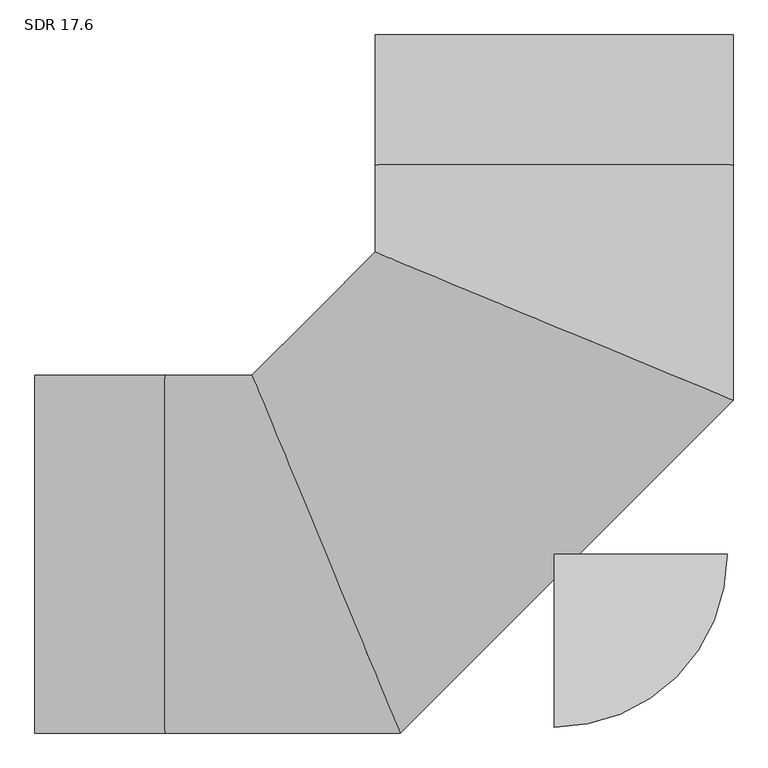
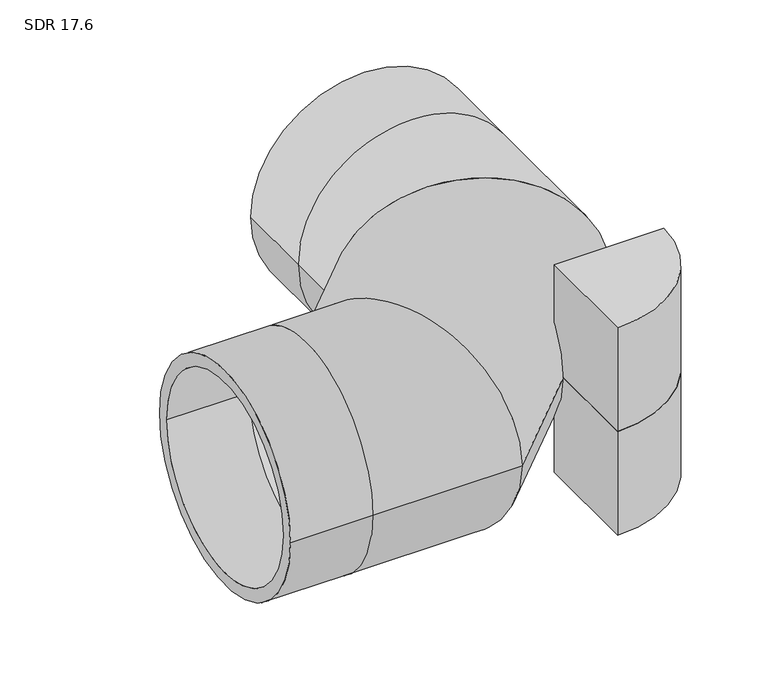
"""IFC4 building model written with IfcOpenShell, lengths in millimetres: pipe fitting geometry, Aquatherm - Elbow Blue BW Segmented : SDR 17.6."""

import ifcopenshell
import ifcopenshell.guid

model = None  # the IFC model being written
_history = None  # IfcOwnerHistory: only IFC2X3 demands one
_inside = {}  # id of a spatial element -> (the spatial element, [elements in it])
_under = {}  # id of a project, library or spatial element -> (it, [spatial elements below it])
_declared = {}  # id of a project -> (the project, [libraries it declares])
_typed = {}  # id of a type object -> (the type object, [elements of that type])
_made_of = {}  # id of a material, layer set ... -> (it, [elements and type objects made of it])


def new_model(schema):
    """Start an empty IFC model of exactly this schema.

    Asked for "IFC4X3", IfcOpenShell would pick the latest addendum, in which some entities
    have other attributes; the version numbers below select the first issue.
    IFC2X3 requires an IfcOwnerHistory on every rooted entity: one is made here for all.
    """
    global model, _history
    if schema == "IFC4X3":
        model = ifcopenshell.file(schema_version=(4, 3, 0, 0))
    else:
        model = ifcopenshell.file(schema=schema)
    _inside.clear()
    _under.clear()
    _declared.clear()
    _typed.clear()
    _made_of.clear()
    _history = None
    if model.schema == "IFC2X3":
        org = make("IfcOrganization", Name="unknown")
        user = make(
            "IfcPersonAndOrganization",
            ThePerson=make("IfcPerson", FamilyName="unknown"),
            TheOrganization=org,
        )
        app = make(
            "IfcApplication",
            ApplicationDeveloper=org,
            Version="unknown",
            ApplicationFullName="unknown",
            ApplicationIdentifier="unknown",
        )
        _history = make(
            "IfcOwnerHistory",
            OwningUser=user,
            OwningApplication=app,
            ChangeAction="ADDED",
            CreationDate=0,
        )
    return model


def make(cls, **values):
    """One entity of the class cls with the attributes given. An attribute that is None is left unset."""
    return model.create_entity(
        cls, **{name: value for name, value in values.items() if value is not None}
    )


def rooted(cls, **values):
    """An entity with a GlobalId (a new one), such as an element, a storey or a relation."""
    return make(cls, GlobalId=ifcopenshell.guid.new(), OwnerHistory=_history, **values)


def si_unit(unit_type, name, prefix=None):
    """IfcSIUnit, for example si_unit("LENGTHUNIT", "METRE", prefix="MILLI")."""
    return make("IfcSIUnit", UnitType=unit_type, Prefix=prefix, Name=name)


def assignment(units):
    """IfcUnitAssignment: the units of a project."""
    return None if units is None else make("IfcUnitAssignment", Units=units)


def point(xyz):
    """IfcCartesianPoint."""
    return None if xyz is None else make("IfcCartesianPoint", Coordinates=xyz)


def direction(xyz):
    """IfcDirection."""
    return None if xyz is None else make("IfcDirection", DirectionRatios=xyz)


def frame(location, z_axis=None, x_axis=None):
    """IfcAxis2Placement3D, a coordinate frame: its origin and axes. An axis left out is left unset."""
    return make(
        "IfcAxis2Placement3D",
        Location=point(location),
        Axis=direction(z_axis),
        RefDirection=direction(x_axis),
    )


def frame_2d(location, x_axis=None):
    """IfcAxis2Placement2D, a coordinate frame in the plane: its origin and x axis."""
    return make(
        "IfcAxis2Placement2D", Location=point(location), RefDirection=direction(x_axis)
    )


def origin():
    """The frame at (0, 0, 0) with its axes left unset."""
    return frame((0.0, 0.0, 0.0))


def origin_with_axes():
    """The frame at (0, 0, 0) with the z axis (0, 0, 1) and the x axis (1, 0, 0) written out."""
    return frame((0.0, 0.0, 0.0), z_axis=(0.0, 0.0, 1.0), x_axis=(1.0, 0.0, 0.0))


def origin_2d():
    """The frame at (0, 0) in the plane with its x axis left unset."""
    return frame_2d((0.0, 0.0))


def place(relative_to, where):
    """IfcLocalPlacement: puts the frame where relative to a parent placement (None: the world)."""
    return make(
        "IfcLocalPlacement", PlacementRelTo=relative_to, RelativePlacement=where
    )


def context(
    kind, dimensions, precision=None, world=None, true_north=None, identifier=None
):
    """IfcGeometricRepresentationContext, for example the 3D "Model" context."""
    return make(
        "IfcGeometricRepresentationContext",
        ContextIdentifier=identifier,
        ContextType=kind,
        CoordinateSpaceDimension=dimensions,
        Precision=precision,
        WorldCoordinateSystem=world,
        TrueNorth=true_north,
    )


def project(units=None, contexts=None):
    """IfcProject with its units and contexts."""
    return rooted(
        "IfcProject",
        Name="project",
        RepresentationContexts=contexts,
        UnitsInContext=assignment(units),
    )


def spatial(cls, under=None, at=None, **own):
    """A site, building, storey or space (cls), placed at a placement, below another one or the project."""
    s = rooted(cls, ObjectPlacement=at, **own)
    if under is not None:
        _under.setdefault(under.id(), (under, []))[1].append(s)
    return s


def polyline(points):
    """IfcPolyline through the points."""
    return make("IfcPolyline", Points=[point(p) for p in points])


def circle_curve(where, radius):
    """IfcCircle in the frame where."""
    return make("IfcCircle", Position=where, Radius=radius)


def ellipse_curve(where, semi_axis1, semi_axis2):
    """IfcEllipse in the frame where."""
    return make(
        "IfcEllipse", Position=where, SemiAxis1=semi_axis1, SemiAxis2=semi_axis2
    )


def trimmed(basis, trim1, trim2, sense, master):
    """IfcTrimmedCurve: the piece of a basis curve between two trims."""
    return make(
        "IfcTrimmedCurve",
        BasisCurve=basis,
        Trim1=trim1,
        Trim2=trim2,
        SenseAgreement=sense,
        MasterRepresentation=master,
    )


def segment(curve, same_sense, transition):
    """IfcCompositeCurveSegment."""
    return make(
        "IfcCompositeCurveSegment",
        Transition=transition,
        SameSense=same_sense,
        ParentCurve=curve,
    )


def composite_curve(segments, self_intersect=None):
    """IfcCompositeCurve: segments joined end to end."""
    return make("IfcCompositeCurve", Segments=segments, SelfIntersect=self_intersect)


def outline(outer, holes=None, kind="AREA"):
    """IfcArbitraryClosedProfileDef: a profile drawn as a closed curve; with holes, ...WithVoids."""
    if holes is None:
        return make("IfcArbitraryClosedProfileDef", ProfileType=kind, OuterCurve=outer)
    return make(
        "IfcArbitraryProfileDefWithVoids",
        ProfileType=kind,
        OuterCurve=outer,
        InnerCurves=holes,
    )


def extrude(swept, where, along, depth):
    """IfcExtrudedAreaSolid: the profile swept, set in the frame where, extruded along a direction by depth."""
    return make(
        "IfcExtrudedAreaSolid",
        SweptArea=swept,
        Position=where,
        ExtrudedDirection=direction(along),
        Depth=depth,
    )


def shape(context_of_items, identifier, shape_type, items):
    """IfcShapeRepresentation: the items that make up one representation, for example the "Body"."""
    return make(
        "IfcShapeRepresentation",
        ContextOfItems=context_of_items,
        RepresentationIdentifier=identifier,
        RepresentationType=shape_type,
        Items=items,
    )


def source(mapping_origin, context_of_items, identifier, shape_type, items):
    """IfcRepresentationMap: a shape defined once, which mapped items show again and again."""
    return make(
        "IfcRepresentationMap",
        MappingOrigin=mapping_origin,
        MappedRepresentation=shape(context_of_items, identifier, shape_type, items),
    )


def transform(
    local_origin,
    x_axis=None,
    y_axis=None,
    z_axis=None,
    scale=None,
    scale2=None,
    scale3=None,
    uniform=True,
):
    """IfcCartesianTransformationOperator3D, or its non-uniform kind. x_axis, y_axis, z_axis: its Axis1, 2, 3."""
    if uniform:
        return make(
            "IfcCartesianTransformationOperator3D",
            Axis1=direction(x_axis),
            Axis2=direction(y_axis),
            LocalOrigin=point(local_origin),
            Scale=scale,
            Axis3=direction(z_axis),
        )
    return make(
        "IfcCartesianTransformationOperator3DnonUniform",
        Axis1=direction(x_axis),
        Axis2=direction(y_axis),
        LocalOrigin=point(local_origin),
        Scale=scale,
        Axis3=direction(z_axis),
        Scale2=scale2,
        Scale3=scale3,
    )


def mapped(mapping_source, mapping_target):
    """IfcMappedItem: shows the shape of a source again, moved by a transform."""
    return make(
        "IfcMappedItem", MappingSource=mapping_source, MappingTarget=mapping_target
    )


def made_of(thing, what):
    """Note that an element or type object is made of a material, layer set ...; save() writes the relation."""
    if what is not None:
        _made_of.setdefault(what.id(), (what, []))[1].append(thing)
    return thing


def element(
    cls,
    number,
    at=None,
    inside=None,
    cuts=None,
    type_object=None,
    material=None,
    context=None,
    identifier="Body",
    shape_type=None,
    held_by="IfcProductDefinitionShape",
    body=None,
    shapes=None,
    **own,
):
    """One element of the class cls, such as IfcWall. Its Tag is "e" and its number.

    at: its placement. inside: the storey or other place that contains it. cuts: it is an
    opening in that element (IfcRelVoidsElement). A single representation is given by context,
    identifier, shape_type and body (its items); several are given by shapes. held_by: the class
    of the entity that holds the representations. save() writes the other relations.
    """
    e = rooted(cls, Tag="e%d" % number, ObjectPlacement=at, **own)
    if body is not None:
        shapes = [shape(context, identifier, shape_type, body)]
    if shapes is not None:
        e.Representation = make(held_by, Representations=shapes)
    if inside is not None:
        _inside.setdefault(inside.id(), (inside, []))[1].append(e)
    if cuts is not None:
        rooted(
            "IfcRelVoidsElement", RelatingBuildingElement=cuts, RelatedOpeningElement=e
        )
    if type_object is not None:
        _typed.setdefault(type_object.id(), (type_object, []))[1].append(e)
    return made_of(e, material)


def aggregate(whole, parts):
    """IfcRelAggregates: a whole, such as a stair, and the parts it consists of."""
    return rooted("IfcRelAggregates", RelatingObject=whole, RelatedObjects=parts)


def save(model, path):
    """Write the relations noted so far, then the file.

    IfcRelAggregates (storeys below a building ...), IfcRelContainedInSpatialStructure (elements
    in a storey), IfcRelDefinesByType, IfcRelAssociatesMaterial and IfcRelDeclares: one each for
    every whole, place, type object, material and project.
    """
    for whole, parts in _under.values():
        aggregate(whole, parts)
    for where, things in _inside.values():
        rooted(
            "IfcRelContainedInSpatialStructure",
            RelatedElements=things,
            RelatingStructure=where,
        )
    for kind, things in _typed.values():
        rooted("IfcRelDefinesByType", RelatedObjects=things, RelatingType=kind)
    for what, things in _made_of.values():
        rooted("IfcRelAssociatesMaterial", RelatedObjects=things, RelatingMaterial=what)
    for by, libraries in _declared.values():
        rooted("IfcRelDeclares", RelatingContext=by, RelatedDefinitions=libraries)
    model.write(path)


def plane_surface(at):
    """IfcPlane: the flat surface through the origin of the frame at, square to its z axis."""
    return make("IfcPlane", Position=at)


def cylinder_surface(at, radius):
    """IfcCylindricalSurface: all points at the distance radius from the z axis of the frame at."""
    return make("IfcCylindricalSurface", Position=at, Radius=radius)


def revolved_surface(curve, axis_point, axis_direction):
    """IfcSurfaceOfRevolution: the curve turned about the line through axis_point along axis_direction."""
    return make(
        "IfcSurfaceOfRevolution",
        SweptCurve=make("IfcArbitraryOpenProfileDef", ProfileType="CURVE", Curve=curve),
        AxisPosition=make("IfcAxis1Placement", Location=point(axis_point), Axis=direction(axis_direction)),
    )


def advanced_brep(points, edges, surfaces, faces):
    """IfcAdvancedBrep: a solid bounded by faces that lie on surfaces and meet in shared edges.

    An edge is (start, end): straight between two places in points (the first is 0);
    or (start, end, curve); or (start, end, curve, False) where it runs against its curve.
    A face is (place in surfaces, loops), or (place, loops, False) where it looks against
    its surface's normal. A loop lists edges by number (the first is 1), with a minus sign
    where the edge is run from its end to its start. The first loop is the outer one.
    """
    corners = [point(p) for p in points]
    vertices = [make("IfcVertexPoint", VertexGeometry=c) for c in corners]
    made = []
    for start, end, *more in edges:
        made.append(
            make(
                "IfcEdgeCurve",
                EdgeStart=vertices[start],
                EdgeEnd=vertices[end],
                EdgeGeometry=more[0] if more else make("IfcPolyline", Points=[corners[start], corners[end]]),
                SameSense=more[1] if len(more) > 1 else True,
            )
        )
    hull = []
    for where, loops, *sense in faces:
        bounds = []
        for j, loop in enumerate(loops):
            ring = [make("IfcOrientedEdge", EdgeElement=made[abs(k) - 1], Orientation=k > 0) for k in loop]
            bounds.append(
                make(
                    "IfcFaceOuterBound" if j == 0 else "IfcFaceBound",
                    Bound=make("IfcEdgeLoop", EdgeList=ring),
                    Orientation=True,
                )
            )
        hull.append(make("IfcAdvancedFace", Bounds=bounds, FaceSurface=surfaces[where], SameSense=sense[0] if sense else True))
    return make("IfcAdvancedBrep", Outer=make("IfcClosedShell", CfsFaces=hull))


def sdr_17_6_f2cc40f9(model_context):
    return source(origin(), model_context, "Body", "SolidModel", [
        extrude(outline(composite_curve([segment(polyline([(0.0, -304.8), (0.0, 0.0), (304.8, 0.0)]), True, "CONTINUOUS"), segment(trimmed(circle_curve(origin_2d(), 304.8), [point((304.8, 0.0))], [point((0.0, -304.8))], False, "CARTESIAN"), True, "CONTINUOUS")], self_intersect=False)), frame((0.0, 0.0, -304.8), z_axis=(0.0, 0.0, 1.0), x_axis=(1.0, 0.0, 0.0)), (0.0, 0.0, 1.0), 304.8),
        extrude(outline(composite_curve([segment(trimmed(circle_curve(origin_2d(), 304.8), [point((304.8, 0.0))], [point((0.0, -304.8))], False, "CARTESIAN"), True, "CONTINUOUS"), segment(polyline([(0.0, -304.8), (0.0, 0.0), (304.8, 0.0)]), True, "CONTINUOUS")], self_intersect=False)), origin_with_axes(), (0.0, 0.0, 1.0), 304.8),
        advanced_brep(
        [(-914.4, -314.96, 0.0), (-914.4, 314.96, 0.0), (-914.4, -279.1722681, 0.0), (-914.4, 279.1722681, 0.0), (314.96, 914.4, 0.0), (-314.96, 914.4, 0.0), (279.1722681, 914.4, 0.0), (-279.1722681, 914.4, 0.0), (-685.8, -314.96, 0.0), (-685.8, 314.96, 0.0), (-685.8, -279.1722681, 0.0), (-685.8, 279.1722681, 0.0), (-271.2716353, -314.96, 0.0), (-532.1930425, 314.96, 0.0), (-286.0953992, -279.1722681, 0.0), (-517.3692786, 279.1722681, 0.0), (314.96, 271.2716353, 0.0), (-314.96, 532.1930425, 0.0), (279.1722681, 286.0953992, 0.0), (-279.1722681, 517.3692786, 0.0), (-314.96, 685.8, 0.0), (314.96, 685.8, 0.0), (-279.1722681, 685.8, 0.0), (279.1722681, 685.8, 0.0)],
        [
            (0, 1, circle_curve(frame((-914.4, 0.0, 0.0), z_axis=(-1.0, 0.0, 0.0), x_axis=(0.0, 1.0, 0.0)), 314.96)),
            (1, 0, circle_curve(frame((-914.4, 0.0, 0.0), z_axis=(-1.0, 0.0, 0.0), x_axis=(0.0, 1.0, 0.0)), 314.96)),
            (2, 3, circle_curve(frame((-914.4, 0.0, 0.0), z_axis=(1.0, 0.0, 0.0), x_axis=(0.0, 1.0, 0.0)), 279.1722681)),
            (3, 2, circle_curve(frame((-914.4, 0.0, 0.0), z_axis=(1.0, 0.0, 0.0), x_axis=(0.0, 1.0, 0.0)), 279.1722681)),
            (4, 5, circle_curve(frame((0.0, 914.4, 0.0), z_axis=(0.0, 1.0, 0.0), x_axis=(-1.0, 0.0, 0.0)), 314.96)),
            (5, 4, circle_curve(frame((0.0, 914.4, 0.0), z_axis=(0.0, 1.0, 0.0), x_axis=(-1.0, 0.0, 0.0)), 314.96)),
            (6, 7, circle_curve(frame((0.0, 914.4, 0.0), z_axis=(0.0, -1.0, 0.0), x_axis=(-1.0, 0.0, 0.0)), 279.1722681)),
            (7, 6, circle_curve(frame((0.0, 914.4, 0.0), z_axis=(0.0, -1.0, 0.0), x_axis=(-1.0, 0.0, 0.0)), 279.1722681)),
            (0, 8),
            (8, 9, circle_curve(frame((-685.8, 0.0, 0.0), z_axis=(-1.0, 0.0, 0.0), x_axis=(0.0, 1.0, 0.0)), 314.96)),
            (9, 1),
            (9, 8, circle_curve(frame((-685.8, 0.0, 0.0), z_axis=(-1.0, 0.0, 0.0), x_axis=(0.0, 1.0, 0.0)), 314.96)),
            (2, 10),
            (10, 11, circle_curve(frame((-685.8, 0.0, 0.0), z_axis=(1.0, 0.0, 0.0), x_axis=(0.0, 1.0, 0.0)), 279.1722681)),
            (11, 3),
            (11, 10, circle_curve(frame((-685.8, 0.0, 0.0), z_axis=(1.0, 0.0, 0.0), x_axis=(0.0, 1.0, 0.0)), 279.1722681)),
            (8, 12),
            (12, 13, ellipse_curve(frame((-401.7323389, 0.0, 0.0), z_axis=(-0.9238795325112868, -0.38268343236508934, 0.0), x_axis=(-0.3826834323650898, 0.9238795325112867, 0.0)), 340.9102474, 314.96)),
            (13, 9),
            (13, 12, ellipse_curve(frame((-401.7323389, 0.0, 0.0), z_axis=(-0.9238795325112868, -0.38268343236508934, 0.0), x_axis=(-0.3826834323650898, 0.9238795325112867, 0.0)), 340.9102474, 314.96)),
            (10, 14),
            (14, 15, ellipse_curve(frame((-401.7323389, 0.0, 0.0), z_axis=(0.9238795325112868, 0.38268343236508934, 0.0), x_axis=(0.3826834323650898, -0.9238795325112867, 0.0)), 302.1738855, 279.1722681)),
            (15, 11),
            (15, 14, ellipse_curve(frame((-401.7323389, 0.0, 0.0), z_axis=(0.9238795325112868, 0.38268343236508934, 0.0), x_axis=(0.3826834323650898, -0.9238795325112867, 0.0)), 302.1738855, 279.1722681)),
            (12, 16),
            (16, 17, ellipse_curve(frame((0.0, 401.7323389, 0.0), z_axis=(-0.3826834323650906, -0.9238795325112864, 0.0), x_axis=(-0.9238795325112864, 0.3826834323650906, 0.0)), 340.9102474, 314.96)),
            (17, 13),
            (17, 16, ellipse_curve(frame((0.0, 401.7323389, 0.0), z_axis=(-0.3826834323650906, -0.9238795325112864, 0.0), x_axis=(-0.9238795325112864, 0.3826834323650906, 0.0)), 340.9102474, 314.96)),
            (14, 18),
            (18, 19, ellipse_curve(frame((0.0, 401.7323389, 0.0), z_axis=(0.3826834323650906, 0.9238795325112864, 0.0), x_axis=(0.9238795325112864, -0.3826834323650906, 0.0)), 302.1738855, 279.1722681)),
            (19, 15),
            (19, 18, ellipse_curve(frame((0.0, 401.7323389, 0.0), z_axis=(0.3826834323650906, 0.9238795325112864, 0.0), x_axis=(0.9238795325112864, -0.3826834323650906, 0.0)), 302.1738855, 279.1722681)),
            (20, 21, circle_curve(frame((0.0, 685.8, 0.0), z_axis=(0.0, 1.0, 0.0), x_axis=(-1.0, 0.0, 0.0)), 314.96)),
            (21, 4),
            (5, 20),
            (21, 20, circle_curve(frame((0.0, 685.8, 0.0), z_axis=(0.0, 1.0, 0.0), x_axis=(-1.0, 0.0, 0.0)), 314.96)),
            (22, 23, circle_curve(frame((0.0, 685.8, 0.0), z_axis=(0.0, -1.0, 0.0), x_axis=(-1.0, 0.0, 0.0)), 279.1722681)),
            (23, 6),
            (7, 22),
            (23, 22, circle_curve(frame((0.0, 685.8, 0.0), z_axis=(0.0, -1.0, 0.0), x_axis=(-1.0, 0.0, 0.0)), 279.1722681)),
            (16, 21),
            (20, 17),
            (18, 23),
            (22, 19),
        ],
        [
            plane_surface(frame((-914.4, 0.0, 0.0), z_axis=(-1.0, 0.0, 0.0), x_axis=(0.0, 0.0, 1.0))),
            plane_surface(frame((0.0, 914.4, 0.0), z_axis=(0.0, 1.0, 0.0), x_axis=(0.0, 0.0, 1.0))),
            cylinder_surface(frame((-914.4, 0.0, 0.0), z_axis=(-1.0, 0.0, 0.0), x_axis=(0.0, 1.0, 0.0)), 314.96),
            revolved_surface(polyline([(-685.8, 279.1722681, 0.0), (-914.4, 279.1722681, 0.0)]), (-914.4, 0.0, 0.0), (1.0, 0.0, 0.0)),
            cylinder_surface(frame((-685.8, 0.0, 0.0), z_axis=(-1.0, 0.0, 0.0), x_axis=(0.0, 1.0, 0.0)), 314.96),
            revolved_surface(polyline([(-286.0953992, 279.1722681, 0.0), (-685.8, 279.1722681, 0.0)]), (-685.8, 0.0, 0.0), (1.0, 0.0, 0.0)),
            cylinder_surface(frame((-401.7323389, 0.0, 0.0), z_axis=(-0.7071067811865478, -0.7071067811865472, 0.0), x_axis=(-0.7071067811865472, 0.7071067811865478, 0.0)), 314.96),
            revolved_surface(polyline([(-115.63693969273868, 680.9046069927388, 0.0), (-680.9046069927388, 115.63693969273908, 0.0)]), (-401.7323389, 0.0, 0.0), (0.7071067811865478, 0.7071067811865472, 0.0)),
            cylinder_surface(frame((0.0, 685.8, 0.0), z_axis=(0.0, -1.0, 0.0), x_axis=(-1.0, 0.0, 0.0)), 314.96),
            revolved_surface(polyline([(-279.1722681, 914.4, 0.0), (-279.1722681, 685.8, 0.0)]), (0.0, 685.8, 0.0), (0.0, 1.0, 0.0)),
            cylinder_surface(frame((0.0, 401.7323389, 0.0), z_axis=(0.0, -1.0, 0.0), x_axis=(-1.0, 0.0, 0.0)), 314.96),
            revolved_surface(polyline([(-279.1722681, 685.8, 0.0), (-279.1722681, 286.0953992, 0.0)]), (0.0, 401.7323389, 0.0), (0.0, 1.0, 0.0)),
        ],
        [
            (0, [[1, 2], [3, 4]]),
            (1, [[5, 6], [7, 8]]),
            (2, [[-1, 9, 10, 11]]),
            (2, [[-2, -11, 12, -9]]),
            (3, [[-3, 13, 14, 15]]),
            (3, [[-4, -15, 16, -13]]),
            (4, [[-10, 17, 18, 19]]),
            (4, [[-12, -19, 20, -17]]),
            (5, [[-14, 21, 22, 23]]),
            (5, [[-16, -23, 24, -21]]),
            (6, [[-18, 25, 26, 27]]),
            (6, [[-20, -27, 28, -25]]),
            (7, [[-22, 29, 30, 31]]),
            (7, [[-24, -31, 32, -29]]),
            (8, [[33, 34, -6, 35]]),
            (8, [[36, -35, -5, -34]]),
            (9, [[37, 38, -8, 39]]),
            (9, [[40, -39, -7, -38]]),
            (10, [[-26, 41, -33, 42]]),
            (10, [[-28, -42, -36, -41]]),
            (11, [[-30, 43, -37, 44]]),
            (11, [[-32, -44, -40, -43]]),
        ],
    ),
    ])


if __name__ == "__main__":
    model = new_model("IFC4")
    model_context = context("Model", 3, world=origin())
    ifc_project = project(units=[si_unit("LENGTHUNIT", "METRE", prefix="MILLI")], contexts=[model_context])
    site = spatial("IfcSite", under=ifc_project)
    building = spatial("IfcBuilding", under=site)
    placement = place(None, origin())
    sdr_17_6_shape = sdr_17_6_f2cc40f9(model_context)
    element("IfcPipeFitting", 1, ObjectType="Aquatherm - Elbow Blue BW Segmented : SDR 17.6", at=placement, inside=building, context=model_context, shape_type="MappedRepresentation", body=[
        mapped(sdr_17_6_shape, transform((0.0, 0.0, 0.0), x_axis=(1.0, 0.0, 0.0), y_axis=(0.0, 1.0, 0.0), z_axis=(0.0, 0.0, 1.0))),
    ])
    save(model, "model.ifc")
